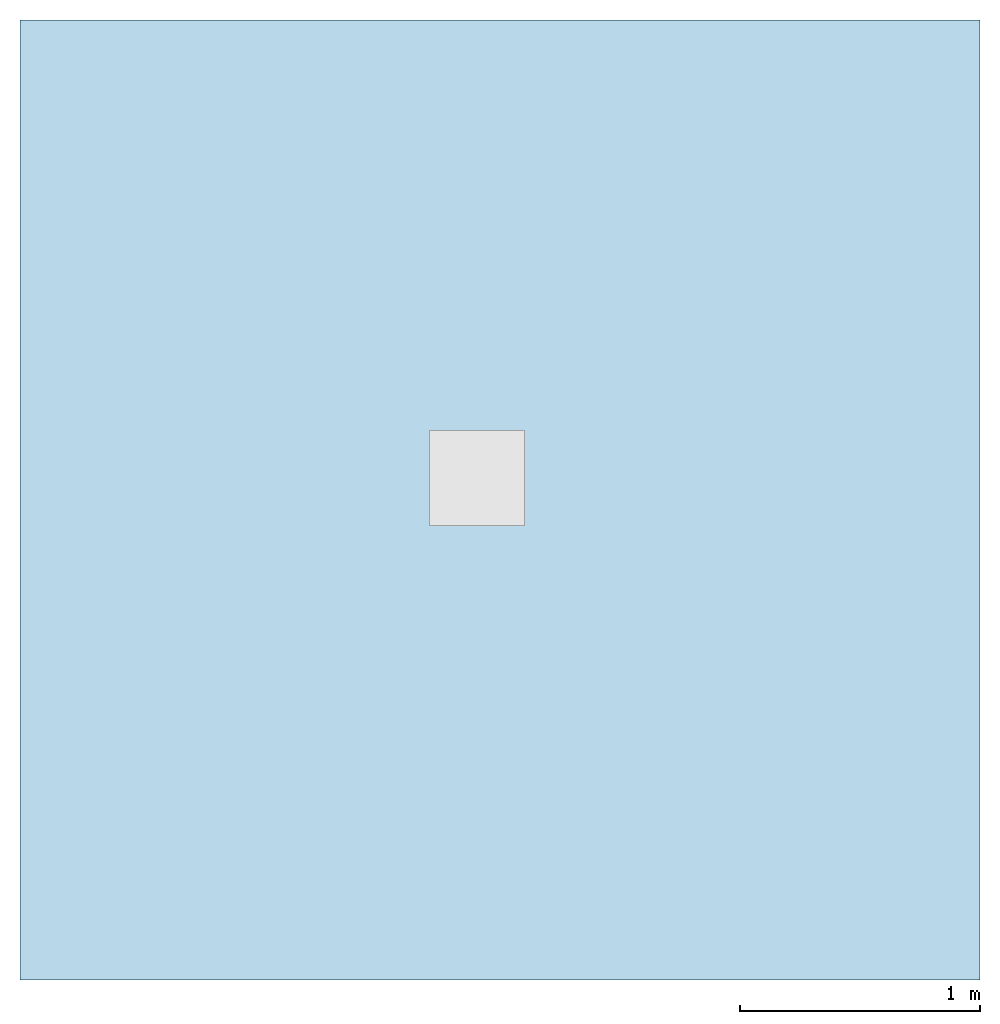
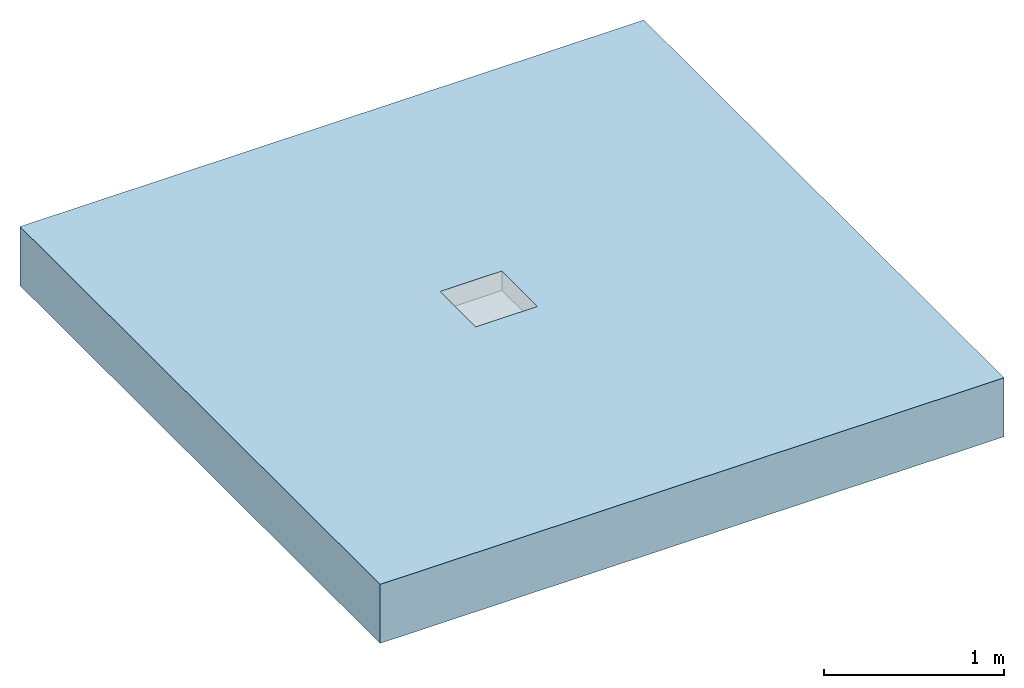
# One storey, incomplete: 1 slab, 2 openings.
"""IFC2X3 building model written with IfcOpenShell, lengths in millimetres."""

from ifc_helpers import new_model, entity, si_unit, converted_unit, derived_unit, direction, frame, frame_2d, origin, origin_2d_with_axis, place, context, subcontext, project, spatial, rectangle, extrude, faceted_brep, material, layer, layer_set, layer_usage, element, save


model = new_model("IFC2X3")

# Units and contexts
model_context = context("Model", 3, precision=1e-05, world=origin(), true_north=direction((2.0, 6.12303176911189e-17, 1.0)))
context_of_model = context(None, 3, precision=1e-05, world=origin(), true_north=direction((2.0, 6.12303176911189e-17, 1.0)))
body_context = subcontext(model_context, "Body", "Model", "MODEL_VIEW")
ifc_project = project(units=[si_unit("LENGTHUNIT", "METRE", prefix="MILLI"), si_unit("AREAUNIT", "SQUARE_METRE"), si_unit("VOLUMEUNIT", "CUBIC_METRE"), converted_unit("PLANEANGLEUNIT", "DEGREE", entity("IfcRatioMeasure", 0.0174532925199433), si_unit("PLANEANGLEUNIT", "RADIAN"), dimensions=[0, 0, 0, 0, 0, 0, 0]), si_unit("MASSUNIT", "GRAM", prefix="KILO"), si_unit("TIMEUNIT", "SECOND"), si_unit("THERMODYNAMICTEMPERATUREUNIT", "KELVIN"), derived_unit("THERMALTRANSMITTANCEUNIT", [(si_unit("MASSUNIT", "GRAM", prefix="KILO"), 1), (si_unit("THERMODYNAMICTEMPERATUREUNIT", "KELVIN"), -1), (si_unit("TIMEUNIT", "SECOND"), -3)]), derived_unit("VOLUMETRICFLOWRATEUNIT", [(si_unit("LENGTHUNIT", "METRE"), 3), (si_unit("TIMEUNIT", "SECOND"), -1)]), si_unit("POWERUNIT", "WATT")], contexts=[model_context, context_of_model])

# Site, building, storey
site_placement = place(None, origin())
site = spatial("IfcSite", under=ifc_project, at=site_placement, Name="Default", CompositionType="ELEMENT")
building_placement = place(site_placement, origin())
building = spatial("IfcBuilding", under=site, at=building_placement, CompositionType="ELEMENT")
storey_placement = place(building_placement, origin())
storey = spatial("IfcBuildingStorey", under=building, at=storey_placement, Name="Level 1", CompositionType="ELEMENT", Elevation=0.0)

# Slab, openings
ifc_material = material(Name="Concrete, Broom Finish")
ifc_layer = layer(ifc_material, 400.0)
ifc_layer_set = layer_set([ifc_layer], Name="Floor:Generic Floor - 400mm")
ifc_layer_usage = layer_usage(ifc_layer_set, "AXIS3", "POSITIVE", 0.0)
slab_placement = place(storey_placement, origin())
slab = element("IfcSlab", 1, at=slab_placement, inside=storey, material=ifc_layer_usage, Name="Floor:Generic Floor - 400mm", ObjectType="Floor:Generic Floor - 400mm", PredefinedType="FLOOR", context=body_context, shape_type="SweptSolid", body=[
    extrude(rectangle(XDim=4000.0, YDim=4000.0, at=frame_2d((0.0, 0.0), x_axis=(0.0, -1.0))), frame((-42.176138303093, 2.05004766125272, 0.0), z_axis=(0.0, 0.0, -1.0), x_axis=(-1.0, 0.0, 0.0)), (0.0, 0.0, 1.0), 400.0),
])
opening_1_placement = place(slab_placement, origin())
element("IfcOpeningElement", 2, at=opening_1_placement, cuts=slab, ObjectType="Recess", context=body_context, shape_type="SweptSolid", body=[
    extrude(rectangle(XDim=99.9999999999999, YDim=100.0, at=origin_2d_with_axis()), frame((-138.311063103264, 143.737836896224, -5000.0)), (0.0, 0.0, 1.0), 30.0000000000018),
])
opening_2_placement = place(slab_placement, origin())
element("IfcOpeningElement", 3, at=opening_2_placement, cuts=slab, ObjectType="Recess", context=body_context, shape_type="Brep", body=[
    faceted_brep([(-335.801063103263, -103.752163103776, 0.0), (59.1789368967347, -103.752163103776, 0.0), (59.1789368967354, 291.227836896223, 0.0), (-335.801063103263, 291.227836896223, 0.0), (59.1789368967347, -103.752163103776, -30.0), (59.1789368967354, 291.227836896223, -30.0), (-335.801063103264, -103.752163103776, -30.0), (-335.801063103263, 291.227836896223, -30.0), (-338.31106310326, 293.737836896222, -134.0), (61.6889368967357, 293.73783689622, -134.0), (61.688936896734, -106.262163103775, -134.0), (-338.311063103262, -106.262163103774, -134.0), (61.688936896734, -106.262163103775, -59.0), (60.1889368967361, -104.762163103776, -59.0), (-336.811063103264, -104.762163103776, -59.0), (60.1889368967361, 292.237836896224, -59.0), (-338.311063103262, -106.262163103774, -59.0), (-336.811063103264, 292.237836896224, -59.0), (61.6889368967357, 293.73783689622, -59.0), (-338.31106310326, 293.737836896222, -59.0), (60.1889368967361, -104.762163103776, -30.0), (-336.811063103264, -104.762163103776, -30.0), (60.1889368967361, 292.237836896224, -30.0), (-336.811063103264, 292.237836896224, -30.0)], [[[0, 1, 2]], [[2, 3, 0]], [[4, 5, 2]], [[2, 1, 4]], [[6, 4, 0]], [[1, 0, 4]], [[7, 6, 0]], [[0, 3, 7]], [[5, 7, 3]], [[3, 2, 5]], [[8, 9, 10]], [[10, 11, 8]], [[12, 13, 14]], [[13, 12, 15]], [[16, 14, 17]], [[14, 16, 12]], [[15, 18, 17]], [[18, 15, 12]], [[17, 19, 16]], [[19, 17, 18]], [[10, 9, 18]], [[18, 12, 10]], [[11, 10, 16]], [[12, 16, 10]], [[8, 11, 16]], [[16, 19, 8]], [[9, 8, 18]], [[19, 18, 8]], [[20, 4, 6]], [[4, 20, 5]], [[21, 6, 7]], [[6, 21, 20]], [[5, 22, 7]], [[22, 5, 20]], [[7, 23, 21]], [[23, 7, 22]], [[22, 20, 13]], [[13, 15, 22]], [[23, 22, 15]], [[15, 17, 23]], [[21, 23, 17]], [[17, 14, 21]], [[20, 21, 14]], [[14, 13, 20]]]),
])

save(model, "model.ifc")
